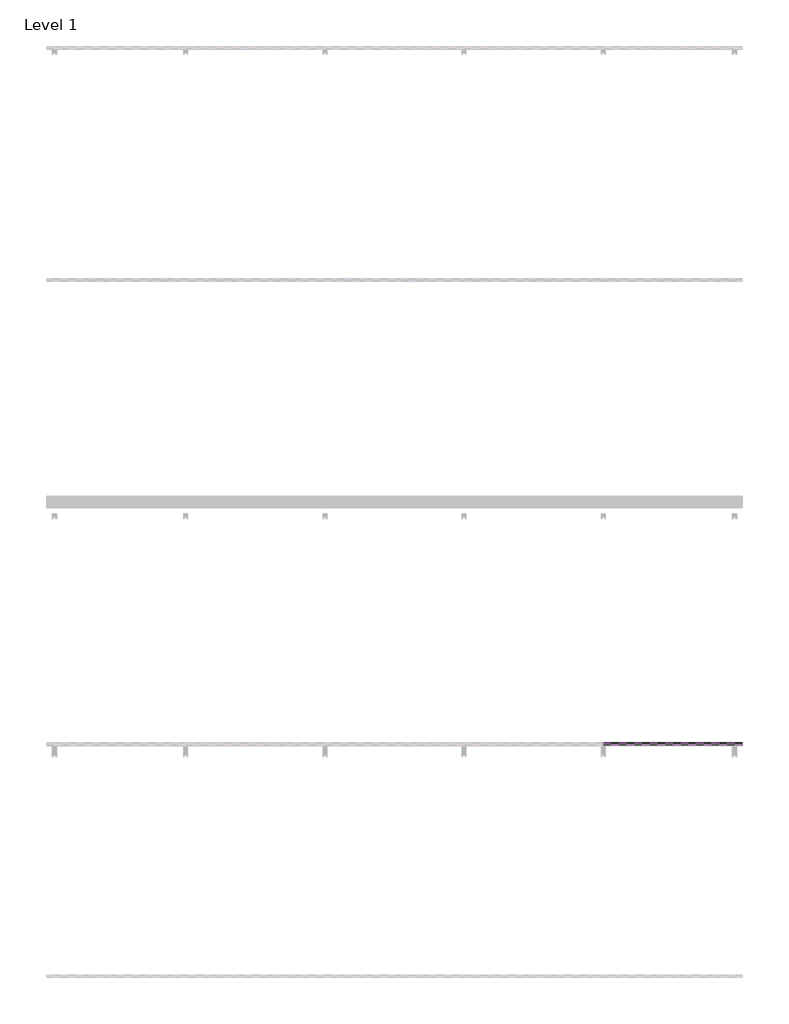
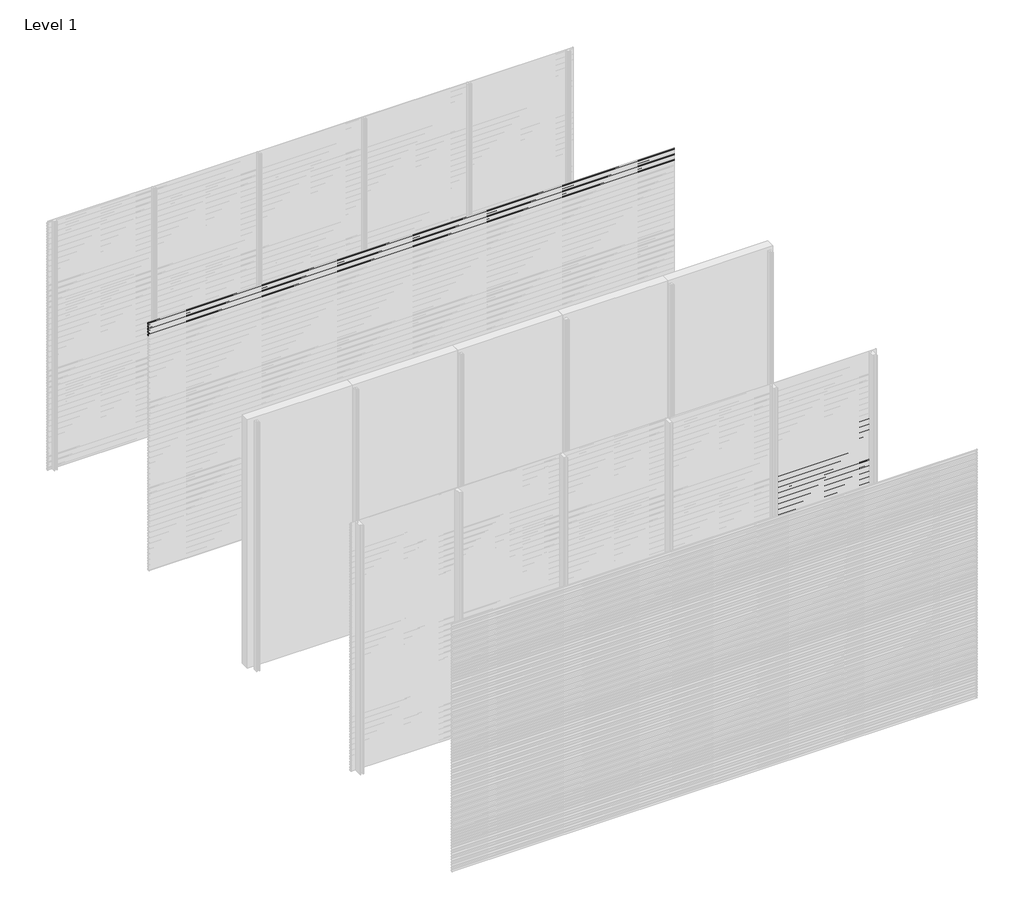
# One storey, part 55 of 77: 72 proxies.
"""IFC4 building model written with IfcOpenShell, lengths in millimetres."""

from ifc_helpers import new_model, si_unit, frame, origin, place, context, project, spatial, polyline, outline, extrude, element, save

model = new_model("IFC4")

# Units and contexts
model_context = context("Model", 3, world=origin())
ifc_project = project(units=[si_unit("LENGTHUNIT", "METRE", prefix="MILLI")], contexts=[model_context])

# Site, building, storey
site = spatial("IfcSite", under=ifc_project)
building = spatial("IfcBuilding", under=site)
storey = spatial("IfcBuildingStorey", under=building, Name="Level 1", Elevation=0.0)

# Proxies
placement = place(None, origin())
element("IfcBuildingElementProxy", 1, Name="Wall Sweeps", at=placement, inside=storey, context=model_context, shape_type="SweptSolid", body=[
    extrude(outline(polyline([(-13978.6, 2972.5359887), (-13998.0, 2983.7366691), (-13998.0, 2997.0), (-13997.0, 2997.0), (-13997.0, 2984.3191057), (-13977.6, 2973.1185105), (-13977.6, 2959.5185105), (-13978.6, 2961.0953129), (-13978.6, 2966.9032062), (-13995.9773817, 2958.8), (-13996.4, 2959.7063078), (-13978.6, 2968.0065841), (-13978.6, 2972.5359887)])), frame((0.0, 0.0, 0.0), z_axis=(1.0, 0.0, 0.0), x_axis=(0.0, 1.0, 0.0)), (0.0, 0.0, 1.0), 6000.0),
])
element("IfcBuildingElementProxy", 2, Name="Wall Sweeps", at=placement, inside=storey, context=model_context, shape_type="SweptSolid", body=[
    extrude(outline(polyline([(-13978.6, 2939.2359887), (-13998.0, 2950.4366691), (-13998.0, 2963.7), (-13997.0, 2963.7), (-13997.0, 2951.0191057), (-13977.6, 2939.8185105), (-13977.6, 2926.2185105), (-13978.6, 2927.7953129), (-13978.6, 2933.6032062), (-13995.9773817, 2925.5), (-13996.4, 2926.4063078), (-13978.6, 2934.7065841), (-13978.6, 2939.2359887)])), frame((0.0, 0.0, 0.0), z_axis=(1.0, 0.0, 0.0), x_axis=(0.0, 1.0, 0.0)), (0.0, 0.0, 1.0), 6000.0),
])
element("IfcBuildingElementProxy", 3, Name="Wall Sweeps", at=placement, inside=storey, context=model_context, shape_type="SweptSolid", body=[
    extrude(outline(polyline([(-13978.6, 2905.9359887), (-13998.0, 2917.1366691), (-13998.0, 2930.4), (-13997.0, 2930.4), (-13997.0, 2917.7191057), (-13977.6, 2906.5185105), (-13977.6, 2892.9185105), (-13978.6, 2894.4953129), (-13978.6, 2900.3032062), (-13995.9773817, 2892.2), (-13996.4, 2893.1063078), (-13978.6, 2901.4065841), (-13978.6, 2905.9359887)])), frame((0.0, 0.0, 0.0), z_axis=(1.0, 0.0, 0.0), x_axis=(0.0, 1.0, 0.0)), (0.0, 0.0, 1.0), 6000.0),
])
element("IfcBuildingElementProxy", 4, Name="Wall Sweeps", at=placement, inside=storey, context=model_context, shape_type="SweptSolid", body=[
    extrude(outline(polyline([(-13978.6, 2872.6359887), (-13998.0, 2883.8366691), (-13998.0, 2897.1), (-13997.0, 2897.1), (-13997.0, 2884.4191057), (-13977.6, 2873.2185105), (-13977.6, 2859.6185105), (-13978.6, 2861.1953129), (-13978.6, 2867.0032062), (-13995.9773817, 2858.9), (-13996.4, 2859.8063078), (-13978.6, 2868.1065841), (-13978.6, 2872.6359887)])), frame((0.0, 0.0, 0.0), z_axis=(1.0, 0.0, 0.0), x_axis=(0.0, 1.0, 0.0)), (0.0, 0.0, 1.0), 6000.0),
])
element("IfcBuildingElementProxy", 5, Name="Wall Sweeps", at=placement, inside=storey, context=model_context, shape_type="SweptSolid", body=[
    extrude(outline(polyline([(-13978.6, 2839.3359887), (-13998.0, 2850.5366691), (-13998.0, 2863.8), (-13997.0, 2863.8), (-13997.0, 2851.1191057), (-13977.6, 2839.9185105), (-13977.6, 2826.3185105), (-13978.6, 2827.8953129), (-13978.6, 2833.7032062), (-13995.9773817, 2825.6), (-13996.4, 2826.5063078), (-13978.6, 2834.8065841), (-13978.6, 2839.3359887)])), frame((0.0, 0.0, 0.0), z_axis=(1.0, 0.0, 0.0), x_axis=(0.0, 1.0, 0.0)), (0.0, 0.0, 1.0), 6000.0),
])
element("IfcBuildingElementProxy", 6, Name="Wall Sweeps", at=placement, inside=storey, context=model_context, shape_type="SweptSolid", body=[
    extrude(outline(polyline([(-17978.6, 2206.6359887), (-17998.0, 2217.8366691), (-17998.0, 2231.1), (-17997.0, 2231.1), (-17997.0, 2218.4191057), (-17977.6, 2207.2185105), (-17977.6, 2193.6185105), (-17978.6, 2195.1953129), (-17978.6, 2201.0032062), (-17995.9773817, 2192.9), (-17996.4, 2193.8063078), (-17978.6, 2202.1065841), (-17978.6, 2206.6359887)])), frame((4800.0, 0.0, 0.0), z_axis=(1.0, 0.0, 0.0), x_axis=(0.0, 1.0, 0.0)), (0.0, 0.0, 1.0), 1200.0),
])
element("IfcBuildingElementProxy", 7, Name="Wall Sweeps", at=placement, inside=storey, context=model_context, shape_type="SweptSolid", body=[
    extrude(outline(polyline([(-17978.6, 2173.3359887), (-17998.0, 2184.5366691), (-17998.0, 2197.8), (-17997.0, 2197.8), (-17997.0, 2185.1191057), (-17977.6, 2173.9185105), (-17977.6, 2160.3185105), (-17978.6, 2161.8953129), (-17978.6, 2167.7032062), (-17995.9773817, 2159.6), (-17996.4, 2160.5063078), (-17978.6, 2168.8065841), (-17978.6, 2173.3359887)])), frame((4800.0, 0.0, 0.0), z_axis=(1.0, 0.0, 0.0), x_axis=(0.0, 1.0, 0.0)), (0.0, 0.0, 1.0), 1200.0),
])
element("IfcBuildingElementProxy", 8, Name="Wall Sweeps", at=placement, inside=storey, context=model_context, shape_type="SweptSolid", body=[
    extrude(outline(polyline([(-17978.6, 2140.0359887), (-17998.0, 2151.2366691), (-17998.0, 2164.5), (-17997.0, 2164.5), (-17997.0, 2151.8191057), (-17977.6, 2140.6185105), (-17977.6, 2127.0185105), (-17978.6, 2128.5953129), (-17978.6, 2134.4032062), (-17995.9773817, 2126.3), (-17996.4, 2127.2063078), (-17978.6, 2135.5065841), (-17978.6, 2140.0359887)])), frame((4800.0, 0.0, 0.0), z_axis=(1.0, 0.0, 0.0), x_axis=(0.0, 1.0, 0.0)), (0.0, 0.0, 1.0), 1200.0),
])
element("IfcBuildingElementProxy", 9, Name="Wall Sweeps", at=placement, inside=storey, context=model_context, shape_type="SweptSolid", body=[
    extrude(outline(polyline([(-17978.6, 2106.7359887), (-17998.0, 2117.9366691), (-17998.0, 2131.2), (-17997.0, 2131.2), (-17997.0, 2118.5191057), (-17977.6, 2107.3185105), (-17977.6, 2093.7185105), (-17978.6, 2095.2953129), (-17978.6, 2101.1032062), (-17995.9773817, 2093.0), (-17996.4, 2093.9063078), (-17978.6, 2102.2065841), (-17978.6, 2106.7359887)])), frame((4800.0, 0.0, 0.0), z_axis=(1.0, 0.0, 0.0), x_axis=(0.0, 1.0, 0.0)), (0.0, 0.0, 1.0), 1200.0),
])
element("IfcBuildingElementProxy", 10, Name="Wall Sweeps", at=placement, inside=storey, context=model_context, shape_type="SweptSolid", body=[
    extrude(outline(polyline([(-17978.6, 2073.4359887), (-17998.0, 2084.6366691), (-17998.0, 2097.9), (-17997.0, 2097.9), (-17997.0, 2085.2191057), (-17977.6, 2074.0185105), (-17977.6, 2060.4185105), (-17978.6, 2061.9953129), (-17978.6, 2067.8032062), (-17995.9773817, 2059.7), (-17996.4, 2060.6063078), (-17978.6, 2068.9065841), (-17978.6, 2073.4359887)])), frame((4800.0, 0.0, 0.0), z_axis=(1.0, 0.0, 0.0), x_axis=(0.0, 1.0, 0.0)), (0.0, 0.0, 1.0), 1200.0),
])
element("IfcBuildingElementProxy", 11, Name="Wall Sweeps", at=placement, inside=storey, context=model_context, shape_type="SweptSolid", body=[
    extrude(outline(polyline([(-17978.6, 2040.1359887), (-17998.0, 2051.3366691), (-17998.0, 2064.6), (-17997.0, 2064.6), (-17997.0, 2051.9191057), (-17977.6, 2040.7185105), (-17977.6, 2027.1185105), (-17978.6, 2028.6953129), (-17978.6, 2034.5032062), (-17995.9773817, 2026.4), (-17996.4, 2027.3063078), (-17978.6, 2035.6065841), (-17978.6, 2040.1359887)])), frame((4800.0, 0.0, 0.0), z_axis=(1.0, 0.0, 0.0), x_axis=(0.0, 1.0, 0.0)), (0.0, 0.0, 1.0), 1200.0),
])
element("IfcBuildingElementProxy", 12, Name="Wall Sweeps", at=placement, inside=storey, context=model_context, shape_type="SweptSolid", body=[
    extrude(outline(polyline([(-17978.6, 2006.8359887), (-17998.0, 2018.0366691), (-17998.0, 2031.3), (-17997.0, 2031.3), (-17997.0, 2018.6191057), (-17977.6, 2007.4185105), (-17977.6, 1993.8185105), (-17978.6, 1995.3953129), (-17978.6, 2001.2032062), (-17995.9773817, 1993.1), (-17996.4, 1994.0063078), (-17978.6, 2002.3065841), (-17978.6, 2006.8359887)])), frame((4800.0, 0.0, 0.0), z_axis=(1.0, 0.0, 0.0), x_axis=(0.0, 1.0, 0.0)), (0.0, 0.0, 1.0), 1200.0),
])
element("IfcBuildingElementProxy", 13, Name="Wall Sweeps", at=placement, inside=storey, context=model_context, shape_type="SweptSolid", body=[
    extrude(outline(polyline([(-17978.6, 1973.5359887), (-17998.0, 1984.7366691), (-17998.0, 1998.0), (-17997.0, 1998.0), (-17997.0, 1985.3191057), (-17977.6, 1974.1185105), (-17977.6, 1960.5185105), (-17978.6, 1962.0953129), (-17978.6, 1967.9032062), (-17995.9773817, 1959.8), (-17996.4, 1960.7063078), (-17978.6, 1969.0065841), (-17978.6, 1973.5359887)])), frame((4800.0, 0.0, 0.0), z_axis=(1.0, 0.0, 0.0), x_axis=(0.0, 1.0, 0.0)), (0.0, 0.0, 1.0), 1200.0),
])
element("IfcBuildingElementProxy", 14, Name="Wall Sweeps", at=placement, inside=storey, context=model_context, shape_type="SweptSolid", body=[
    extrude(outline(polyline([(-17978.6, 1940.2359887), (-17998.0, 1951.4366691), (-17998.0, 1964.7), (-17997.0, 1964.7), (-17997.0, 1952.0191057), (-17977.6, 1940.8185105), (-17977.6, 1927.2185105), (-17978.6, 1928.7953129), (-17978.6, 1934.6032062), (-17995.9773817, 1926.5), (-17996.4, 1927.4063078), (-17978.6, 1935.7065841), (-17978.6, 1940.2359887)])), frame((4800.0, 0.0, 0.0), z_axis=(1.0, 0.0, 0.0), x_axis=(0.0, 1.0, 0.0)), (0.0, 0.0, 1.0), 1200.0),
])
element("IfcBuildingElementProxy", 15, Name="Wall Sweeps", at=placement, inside=storey, context=model_context, shape_type="SweptSolid", body=[
    extrude(outline(polyline([(-17978.6, 1906.9359887), (-17998.0, 1918.1366691), (-17998.0, 1931.4), (-17997.0, 1931.4), (-17997.0, 1918.7191057), (-17977.6, 1907.5185105), (-17977.6, 1893.9185105), (-17978.6, 1895.4953129), (-17978.6, 1901.3032062), (-17995.9773817, 1893.2), (-17996.4, 1894.1063078), (-17978.6, 1902.4065841), (-17978.6, 1906.9359887)])), frame((4800.0, 0.0, 0.0), z_axis=(1.0, 0.0, 0.0), x_axis=(0.0, 1.0, 0.0)), (0.0, 0.0, 1.0), 1200.0),
])
element("IfcBuildingElementProxy", 16, Name="Wall Sweeps", at=placement, inside=storey, context=model_context, shape_type="SweptSolid", body=[
    extrude(outline(polyline([(-17978.6, 1873.6359887), (-17998.0, 1884.8366691), (-17998.0, 1898.1), (-17997.0, 1898.1), (-17997.0, 1885.4191057), (-17977.6, 1874.2185105), (-17977.6, 1860.6185105), (-17978.6, 1862.1953129), (-17978.6, 1868.0032062), (-17995.9773817, 1859.9), (-17996.4, 1860.8063078), (-17978.6, 1869.1065841), (-17978.6, 1873.6359887)])), frame((4800.0, 0.0, 0.0), z_axis=(1.0, 0.0, 0.0), x_axis=(0.0, 1.0, 0.0)), (0.0, 0.0, 1.0), 1200.0),
])
element("IfcBuildingElementProxy", 17, Name="Wall Sweeps", at=placement, inside=storey, context=model_context, shape_type="SweptSolid", body=[
    extrude(outline(polyline([(-17978.6, 1840.3359887), (-17998.0, 1851.5366691), (-17998.0, 1864.8), (-17997.0, 1864.8), (-17997.0, 1852.1191057), (-17977.6, 1840.9185105), (-17977.6, 1827.3185105), (-17978.6, 1828.8953129), (-17978.6, 1834.7032062), (-17995.9773817, 1826.6), (-17996.4, 1827.5063078), (-17978.6, 1835.8065841), (-17978.6, 1840.3359887)])), frame((4800.0, 0.0, 0.0), z_axis=(1.0, 0.0, 0.0), x_axis=(0.0, 1.0, 0.0)), (0.0, 0.0, 1.0), 1200.0),
])
element("IfcBuildingElementProxy", 18, Name="Wall Sweeps", at=placement, inside=storey, context=model_context, shape_type="SweptSolid", body=[
    extrude(outline(polyline([(-17978.6, 1807.0359887), (-17998.0, 1818.2366691), (-17998.0, 1831.5), (-17997.0, 1831.5), (-17997.0, 1818.8191057), (-17977.6, 1807.6185105), (-17977.6, 1794.0185105), (-17978.6, 1795.5953129), (-17978.6, 1801.4032062), (-17995.9773817, 1793.3), (-17996.4, 1794.2063078), (-17978.6, 1802.5065841), (-17978.6, 1807.0359887)])), frame((4800.0, 0.0, 0.0), z_axis=(1.0, 0.0, 0.0), x_axis=(0.0, 1.0, 0.0)), (0.0, 0.0, 1.0), 1200.0),
])
element("IfcBuildingElementProxy", 19, Name="Wall Sweeps", at=placement, inside=storey, context=model_context, shape_type="SweptSolid", body=[
    extrude(outline(polyline([(-17978.6, 1773.7359887), (-17998.0, 1784.9366691), (-17998.0, 1798.2), (-17997.0, 1798.2), (-17997.0, 1785.5191057), (-17977.6, 1774.3185105), (-17977.6, 1760.7185105), (-17978.6, 1762.2953129), (-17978.6, 1768.1032062), (-17995.9773817, 1760.0), (-17996.4, 1760.9063078), (-17978.6, 1769.2065841), (-17978.6, 1773.7359887)])), frame((4800.0, 0.0, 0.0), z_axis=(1.0, 0.0, 0.0), x_axis=(0.0, 1.0, 0.0)), (0.0, 0.0, 1.0), 1200.0),
])
element("IfcBuildingElementProxy", 20, Name="Wall Sweeps", at=placement, inside=storey, context=model_context, shape_type="SweptSolid", body=[
    extrude(outline(polyline([(-17978.6, 1740.4359887), (-17998.0, 1751.6366691), (-17998.0, 1764.9), (-17997.0, 1764.9), (-17997.0, 1752.2191057), (-17977.6, 1741.0185105), (-17977.6, 1727.4185105), (-17978.6, 1728.9953129), (-17978.6, 1734.8032062), (-17995.9773817, 1726.7), (-17996.4, 1727.6063078), (-17978.6, 1735.9065841), (-17978.6, 1740.4359887)])), frame((4800.0, 0.0, 0.0), z_axis=(1.0, 0.0, 0.0), x_axis=(0.0, 1.0, 0.0)), (0.0, 0.0, 1.0), 1200.0),
])
element("IfcBuildingElementProxy", 21, Name="Wall Sweeps", at=placement, inside=storey, context=model_context, shape_type="SweptSolid", body=[
    extrude(outline(polyline([(-17978.6, 1707.1359887), (-17998.0, 1718.3366691), (-17998.0, 1731.6), (-17997.0, 1731.6), (-17997.0, 1718.9191057), (-17977.6, 1707.7185105), (-17977.6, 1694.1185105), (-17978.6, 1695.6953129), (-17978.6, 1701.5032062), (-17995.9773817, 1693.4), (-17996.4, 1694.3063078), (-17978.6, 1702.6065841), (-17978.6, 1707.1359887)])), frame((4800.0, 0.0, 0.0), z_axis=(1.0, 0.0, 0.0), x_axis=(0.0, 1.0, 0.0)), (0.0, 0.0, 1.0), 1200.0),
])
element("IfcBuildingElementProxy", 22, Name="Wall Sweeps", at=placement, inside=storey, context=model_context, shape_type="SweptSolid", body=[
    extrude(outline(polyline([(-17978.6, 1673.8359887), (-17998.0, 1685.0366691), (-17998.0, 1698.3), (-17997.0, 1698.3), (-17997.0, 1685.6191057), (-17977.6, 1674.4185105), (-17977.6, 1660.8185105), (-17978.6, 1662.3953129), (-17978.6, 1668.2032062), (-17995.9773817, 1660.1), (-17996.4, 1661.0063078), (-17978.6, 1669.3065841), (-17978.6, 1673.8359887)])), frame((4800.0, 0.0, 0.0), z_axis=(1.0, 0.0, 0.0), x_axis=(0.0, 1.0, 0.0)), (0.0, 0.0, 1.0), 1200.0),
])
element("IfcBuildingElementProxy", 23, Name="Wall Sweeps", at=placement, inside=storey, context=model_context, shape_type="SweptSolid", body=[
    extrude(outline(polyline([(-17978.6, 1640.5359887), (-17998.0, 1651.7366691), (-17998.0, 1665.0), (-17997.0, 1665.0), (-17997.0, 1652.3191057), (-17977.6, 1641.1185105), (-17977.6, 1627.5185105), (-17978.6, 1629.0953129), (-17978.6, 1634.9032062), (-17995.9773817, 1626.8), (-17996.4, 1627.7063078), (-17978.6, 1636.0065841), (-17978.6, 1640.5359887)])), frame((4800.0, 0.0, 0.0), z_axis=(1.0, 0.0, 0.0), x_axis=(0.0, 1.0, 0.0)), (0.0, 0.0, 1.0), 1200.0),
])
element("IfcBuildingElementProxy", 24, Name="Wall Sweeps", at=placement, inside=storey, context=model_context, shape_type="SweptSolid", body=[
    extrude(outline(polyline([(-17978.6, 1607.2359887), (-17998.0, 1618.4366691), (-17998.0, 1631.7), (-17997.0, 1631.7), (-17997.0, 1619.0191057), (-17977.6, 1607.8185105), (-17977.6, 1594.2185105), (-17978.6, 1595.7953129), (-17978.6, 1601.6032062), (-17995.9773817, 1593.5), (-17996.4, 1594.4063078), (-17978.6, 1602.7065841), (-17978.6, 1607.2359887)])), frame((4800.0, 0.0, 0.0), z_axis=(1.0, 0.0, 0.0), x_axis=(0.0, 1.0, 0.0)), (0.0, 0.0, 1.0), 1200.0),
])
element("IfcBuildingElementProxy", 25, Name="Wall Sweeps", at=placement, inside=storey, context=model_context, shape_type="SweptSolid", body=[
    extrude(outline(polyline([(-17978.6, 1573.9359887), (-17998.0, 1585.1366691), (-17998.0, 1598.4), (-17997.0, 1598.4), (-17997.0, 1585.7191057), (-17977.6, 1574.5185105), (-17977.6, 1560.9185105), (-17978.6, 1562.4953129), (-17978.6, 1568.3032062), (-17995.9773817, 1560.2), (-17996.4, 1561.1063078), (-17978.6, 1569.4065841), (-17978.6, 1573.9359887)])), frame((4800.0, 0.0, 0.0), z_axis=(1.0, 0.0, 0.0), x_axis=(0.0, 1.0, 0.0)), (0.0, 0.0, 1.0), 1200.0),
])
element("IfcBuildingElementProxy", 26, Name="Wall Sweeps", at=placement, inside=storey, context=model_context, shape_type="SweptSolid", body=[
    extrude(outline(polyline([(-17978.6, 1540.6359887), (-17998.0, 1551.8366691), (-17998.0, 1565.1), (-17997.0, 1565.1), (-17997.0, 1552.4191057), (-17977.6, 1541.2185105), (-17977.6, 1527.6185105), (-17978.6, 1529.1953129), (-17978.6, 1535.0032062), (-17995.9773817, 1526.9), (-17996.4, 1527.8063078), (-17978.6, 1536.1065841), (-17978.6, 1540.6359887)])), frame((4800.0, 0.0, 0.0), z_axis=(1.0, 0.0, 0.0), x_axis=(0.0, 1.0, 0.0)), (0.0, 0.0, 1.0), 1200.0),
])
element("IfcBuildingElementProxy", 27, Name="Wall Sweeps", at=placement, inside=storey, context=model_context, shape_type="SweptSolid", body=[
    extrude(outline(polyline([(-17978.6, 1507.3359887), (-17998.0, 1518.5366691), (-17998.0, 1531.8), (-17997.0, 1531.8), (-17997.0, 1519.1191057), (-17977.6, 1507.9185105), (-17977.6, 1494.3185105), (-17978.6, 1495.8953129), (-17978.6, 1501.7032062), (-17995.9773817, 1493.6), (-17996.4, 1494.5063078), (-17978.6, 1502.8065841), (-17978.6, 1507.3359887)])), frame((4800.0, 0.0, 0.0), z_axis=(1.0, 0.0, 0.0), x_axis=(0.0, 1.0, 0.0)), (0.0, 0.0, 1.0), 1200.0),
])
element("IfcBuildingElementProxy", 28, Name="Wall Sweeps", at=placement, inside=storey, context=model_context, shape_type="SweptSolid", body=[
    extrude(outline(polyline([(-17978.6, 1474.0359887), (-17998.0, 1485.2366691), (-17998.0, 1498.5), (-17997.0, 1498.5), (-17997.0, 1485.8191057), (-17977.6, 1474.6185105), (-17977.6, 1461.0185105), (-17978.6, 1462.5953129), (-17978.6, 1468.4032062), (-17995.9773817, 1460.3), (-17996.4, 1461.2063078), (-17978.6, 1469.5065841), (-17978.6, 1474.0359887)])), frame((4800.0, 0.0, 0.0), z_axis=(1.0, 0.0, 0.0), x_axis=(0.0, 1.0, 0.0)), (0.0, 0.0, 1.0), 1200.0),
])
element("IfcBuildingElementProxy", 29, Name="Wall Sweeps", at=placement, inside=storey, context=model_context, shape_type="SweptSolid", body=[
    extrude(outline(polyline([(-17978.6, 1440.7359887), (-17998.0, 1451.9366691), (-17998.0, 1465.2), (-17997.0, 1465.2), (-17997.0, 1452.5191057), (-17977.6, 1441.3185105), (-17977.6, 1427.7185105), (-17978.6, 1429.2953129), (-17978.6, 1435.1032062), (-17995.9773817, 1427.0), (-17996.4, 1427.9063078), (-17978.6, 1436.2065841), (-17978.6, 1440.7359887)])), frame((4800.0, 0.0, 0.0), z_axis=(1.0, 0.0, 0.0), x_axis=(0.0, 1.0, 0.0)), (0.0, 0.0, 1.0), 1200.0),
])
element("IfcBuildingElementProxy", 30, Name="Wall Sweeps", at=placement, inside=storey, context=model_context, shape_type="SweptSolid", body=[
    extrude(outline(polyline([(-17978.6, 1407.4359887), (-17998.0, 1418.6366691), (-17998.0, 1431.9), (-17997.0, 1431.9), (-17997.0, 1419.2191057), (-17977.6, 1408.0185105), (-17977.6, 1394.4185105), (-17978.6, 1395.9953129), (-17978.6, 1401.8032062), (-17995.9773817, 1393.7), (-17996.4, 1394.6063078), (-17978.6, 1402.9065841), (-17978.6, 1407.4359887)])), frame((4800.0, 0.0, 0.0), z_axis=(1.0, 0.0, 0.0), x_axis=(0.0, 1.0, 0.0)), (0.0, 0.0, 1.0), 1200.0),
])
element("IfcBuildingElementProxy", 31, Name="Wall Sweeps", at=placement, inside=storey, context=model_context, shape_type="SweptSolid", body=[
    extrude(outline(polyline([(-17978.6, 1374.1359887), (-17998.0, 1385.3366691), (-17998.0, 1398.6), (-17997.0, 1398.6), (-17997.0, 1385.9191057), (-17977.6, 1374.7185105), (-17977.6, 1361.1185105), (-17978.6, 1362.6953129), (-17978.6, 1368.5032062), (-17995.9773817, 1360.4), (-17996.4, 1361.3063078), (-17978.6, 1369.6065841), (-17978.6, 1374.1359887)])), frame((4800.0, 0.0, 0.0), z_axis=(1.0, 0.0, 0.0), x_axis=(0.0, 1.0, 0.0)), (0.0, 0.0, 1.0), 1200.0),
])
element("IfcBuildingElementProxy", 32, Name="Wall Sweeps", at=placement, inside=storey, context=model_context, shape_type="SweptSolid", body=[
    extrude(outline(polyline([(-17978.6, 1340.8359887), (-17998.0, 1352.0366691), (-17998.0, 1365.3), (-17997.0, 1365.3), (-17997.0, 1352.6191057), (-17977.6, 1341.4185105), (-17977.6, 1327.8185105), (-17978.6, 1329.3953129), (-17978.6, 1335.2032062), (-17995.9773817, 1327.1), (-17996.4, 1328.0063078), (-17978.6, 1336.3065841), (-17978.6, 1340.8359887)])), frame((4800.0, 0.0, 0.0), z_axis=(1.0, 0.0, 0.0), x_axis=(0.0, 1.0, 0.0)), (0.0, 0.0, 1.0), 1200.0),
])
element("IfcBuildingElementProxy", 33, Name="Wall Sweeps", at=placement, inside=storey, context=model_context, shape_type="SweptSolid", body=[
    extrude(outline(polyline([(-17978.6, 1307.5359887), (-17998.0, 1318.7366691), (-17998.0, 1332.0), (-17997.0, 1332.0), (-17997.0, 1319.3191057), (-17977.6, 1308.1185105), (-17977.6, 1294.5185105), (-17978.6, 1296.0953129), (-17978.6, 1301.9032062), (-17995.9773817, 1293.8), (-17996.4, 1294.7063078), (-17978.6, 1303.0065841), (-17978.6, 1307.5359887)])), frame((4800.0, 0.0, 0.0), z_axis=(1.0, 0.0, 0.0), x_axis=(0.0, 1.0, 0.0)), (0.0, 0.0, 1.0), 1200.0),
])
element("IfcBuildingElementProxy", 34, Name="Wall Sweeps", at=placement, inside=storey, context=model_context, shape_type="SweptSolid", body=[
    extrude(outline(polyline([(-17978.6, 1274.2359887), (-17998.0, 1285.4366691), (-17998.0, 1298.7), (-17997.0, 1298.7), (-17997.0, 1286.0191057), (-17977.6, 1274.8185105), (-17977.6, 1261.2185105), (-17978.6, 1262.7953129), (-17978.6, 1268.6032062), (-17995.9773817, 1260.5), (-17996.4, 1261.4063078), (-17978.6, 1269.7065841), (-17978.6, 1274.2359887)])), frame((4800.0, 0.0, 0.0), z_axis=(1.0, 0.0, 0.0), x_axis=(0.0, 1.0, 0.0)), (0.0, 0.0, 1.0), 1200.0),
])
element("IfcBuildingElementProxy", 35, Name="Wall Sweeps", at=placement, inside=storey, context=model_context, shape_type="SweptSolid", body=[
    extrude(outline(polyline([(-17978.6, 1240.9359887), (-17998.0, 1252.1366691), (-17998.0, 1265.4), (-17997.0, 1265.4), (-17997.0, 1252.7191057), (-17977.6, 1241.5185105), (-17977.6, 1227.9185105), (-17978.6, 1229.4953129), (-17978.6, 1235.3032062), (-17995.9773817, 1227.2), (-17996.4, 1228.1063078), (-17978.6, 1236.4065841), (-17978.6, 1240.9359887)])), frame((4800.0, 0.0, 0.0), z_axis=(1.0, 0.0, 0.0), x_axis=(0.0, 1.0, 0.0)), (0.0, 0.0, 1.0), 1200.0),
])
element("IfcBuildingElementProxy", 36, Name="Wall Sweeps", at=placement, inside=storey, context=model_context, shape_type="SweptSolid", body=[
    extrude(outline(polyline([(-17978.6, 1207.6359887), (-17998.0, 1218.8366691), (-17998.0, 1232.1), (-17997.0, 1232.1), (-17997.0, 1219.4191057), (-17977.6, 1208.2185105), (-17977.6, 1194.6185105), (-17978.6, 1196.1953129), (-17978.6, 1202.0032062), (-17995.9773817, 1193.9), (-17996.4, 1194.8063078), (-17978.6, 1203.1065841), (-17978.6, 1207.6359887)])), frame((4800.0, 0.0, 0.0), z_axis=(1.0, 0.0, 0.0), x_axis=(0.0, 1.0, 0.0)), (0.0, 0.0, 1.0), 1200.0),
])
element("IfcBuildingElementProxy", 37, Name="Wall Sweeps", at=placement, inside=storey, context=model_context, shape_type="SweptSolid", body=[
    extrude(outline(polyline([(-17978.6, 1174.3359887), (-17998.0, 1185.5366691), (-17998.0, 1198.8), (-17997.0, 1198.8), (-17997.0, 1186.1191057), (-17977.6, 1174.9185105), (-17977.6, 1161.3185105), (-17978.6, 1162.8953129), (-17978.6, 1168.7032062), (-17995.9773817, 1160.6), (-17996.4, 1161.5063078), (-17978.6, 1169.8065841), (-17978.6, 1174.3359887)])), frame((4800.0, 0.0, 0.0), z_axis=(1.0, 0.0, 0.0), x_axis=(0.0, 1.0, 0.0)), (0.0, 0.0, 1.0), 1200.0),
])
element("IfcBuildingElementProxy", 38, Name="Wall Sweeps", at=placement, inside=storey, context=model_context, shape_type="SweptSolid", body=[
    extrude(outline(polyline([(-17978.6, 1141.0359887), (-17998.0, 1152.2366691), (-17998.0, 1165.5), (-17997.0, 1165.5), (-17997.0, 1152.8191057), (-17977.6, 1141.6185105), (-17977.6, 1128.0185105), (-17978.6, 1129.5953129), (-17978.6, 1135.4032062), (-17995.9773817, 1127.3), (-17996.4, 1128.2063078), (-17978.6, 1136.5065841), (-17978.6, 1141.0359887)])), frame((4800.0, 0.0, 0.0), z_axis=(1.0, 0.0, 0.0), x_axis=(0.0, 1.0, 0.0)), (0.0, 0.0, 1.0), 1200.0),
])
element("IfcBuildingElementProxy", 39, Name="Wall Sweeps", at=placement, inside=storey, context=model_context, shape_type="SweptSolid", body=[
    extrude(outline(polyline([(-17978.6, 1107.7359887), (-17998.0, 1118.9366691), (-17998.0, 1132.2), (-17997.0, 1132.2), (-17997.0, 1119.5191057), (-17977.6, 1108.3185105), (-17977.6, 1094.7185105), (-17978.6, 1096.2953129), (-17978.6, 1102.1032062), (-17995.9773817, 1094.0), (-17996.4, 1094.9063078), (-17978.6, 1103.2065841), (-17978.6, 1107.7359887)])), frame((4800.0, 0.0, 0.0), z_axis=(1.0, 0.0, 0.0), x_axis=(0.0, 1.0, 0.0)), (0.0, 0.0, 1.0), 1200.0),
])
element("IfcBuildingElementProxy", 40, Name="Wall Sweeps", at=placement, inside=storey, context=model_context, shape_type="SweptSolid", body=[
    extrude(outline(polyline([(-17978.6, 1074.4359887), (-17998.0, 1085.6366691), (-17998.0, 1098.9), (-17997.0, 1098.9), (-17997.0, 1086.2191057), (-17977.6, 1075.0185105), (-17977.6, 1061.4185105), (-17978.6, 1062.9953129), (-17978.6, 1068.8032062), (-17995.9773817, 1060.7), (-17996.4, 1061.6063078), (-17978.6, 1069.9065841), (-17978.6, 1074.4359887)])), frame((4800.0, 0.0, 0.0), z_axis=(1.0, 0.0, 0.0), x_axis=(0.0, 1.0, 0.0)), (0.0, 0.0, 1.0), 1200.0),
])
element("IfcBuildingElementProxy", 41, Name="Wall Sweeps", at=placement, inside=storey, context=model_context, shape_type="SweptSolid", body=[
    extrude(outline(polyline([(-17978.6, 1041.1359887), (-17998.0, 1052.3366691), (-17998.0, 1065.6), (-17997.0, 1065.6), (-17997.0, 1052.9191057), (-17977.6, 1041.7185105), (-17977.6, 1028.1185105), (-17978.6, 1029.6953129), (-17978.6, 1035.5032062), (-17995.9773817, 1027.4), (-17996.4, 1028.3063078), (-17978.6, 1036.6065841), (-17978.6, 1041.1359887)])), frame((4800.0, 0.0, 0.0), z_axis=(1.0, 0.0, 0.0), x_axis=(0.0, 1.0, 0.0)), (0.0, 0.0, 1.0), 1200.0),
])
element("IfcBuildingElementProxy", 42, Name="Wall Sweeps", at=placement, inside=storey, context=model_context, shape_type="SweptSolid", body=[
    extrude(outline(polyline([(-17978.6, 1007.8359887), (-17998.0, 1019.0366691), (-17998.0, 1032.3), (-17997.0, 1032.3), (-17997.0, 1019.6191057), (-17977.6, 1008.4185105), (-17977.6, 994.8185105), (-17978.6, 996.3953129), (-17978.6, 1002.2032062), (-17995.9773817, 994.1), (-17996.4, 995.0063078), (-17978.6, 1003.3065841), (-17978.6, 1007.8359887)])), frame((4800.0, 0.0, 0.0), z_axis=(1.0, 0.0, 0.0), x_axis=(0.0, 1.0, 0.0)), (0.0, 0.0, 1.0), 1200.0),
])
element("IfcBuildingElementProxy", 43, Name="Wall Sweeps", at=placement, inside=storey, context=model_context, shape_type="SweptSolid", body=[
    extrude(outline(polyline([(-17978.6, 974.5359887), (-17998.0, 985.7366691), (-17998.0, 999.0), (-17997.0, 999.0), (-17997.0, 986.3191057), (-17977.6, 975.1185105), (-17977.6, 961.5185105), (-17978.6, 963.0953129), (-17978.6, 968.9032062), (-17995.9773817, 960.8), (-17996.4, 961.7063078), (-17978.6, 970.0065841), (-17978.6, 974.5359887)])), frame((4800.0, 0.0, 0.0), z_axis=(1.0, 0.0, 0.0), x_axis=(0.0, 1.0, 0.0)), (0.0, 0.0, 1.0), 1200.0),
])
element("IfcBuildingElementProxy", 44, Name="Wall Sweeps", at=placement, inside=storey, context=model_context, shape_type="SweptSolid", body=[
    extrude(outline(polyline([(-17978.6, 941.2359887), (-17998.0, 952.4366691), (-17998.0, 965.7), (-17997.0, 965.7), (-17997.0, 953.0191057), (-17977.6, 941.8185105), (-17977.6, 928.2185105), (-17978.6, 929.7953129), (-17978.6, 935.6032062), (-17995.9773817, 927.5), (-17996.4, 928.4063078), (-17978.6, 936.7065841), (-17978.6, 941.2359887)])), frame((4800.0, 0.0, 0.0), z_axis=(1.0, 0.0, 0.0), x_axis=(0.0, 1.0, 0.0)), (0.0, 0.0, 1.0), 1200.0),
])
element("IfcBuildingElementProxy", 45, Name="Wall Sweeps", at=placement, inside=storey, context=model_context, shape_type="SweptSolid", body=[
    extrude(outline(polyline([(-17978.6, 907.9359887), (-17998.0, 919.1366691), (-17998.0, 932.4), (-17997.0, 932.4), (-17997.0, 919.7191057), (-17977.6, 908.5185105), (-17977.6, 894.9185105), (-17978.6, 896.4953129), (-17978.6, 902.3032062), (-17995.9773817, 894.2), (-17996.4, 895.1063078), (-17978.6, 903.4065841), (-17978.6, 907.9359887)])), frame((4800.0, 0.0, 0.0), z_axis=(1.0, 0.0, 0.0), x_axis=(0.0, 1.0, 0.0)), (0.0, 0.0, 1.0), 1200.0),
])
element("IfcBuildingElementProxy", 46, Name="Wall Sweeps", at=placement, inside=storey, context=model_context, shape_type="SweptSolid", body=[
    extrude(outline(polyline([(-17978.6, 874.6359887), (-17998.0, 885.8366691), (-17998.0, 899.1), (-17997.0, 899.1), (-17997.0, 886.4191057), (-17977.6, 875.2185105), (-17977.6, 861.6185105), (-17978.6, 863.1953129), (-17978.6, 869.0032062), (-17995.9773817, 860.9), (-17996.4, 861.8063078), (-17978.6, 870.1065841), (-17978.6, 874.6359887)])), frame((4800.0, 0.0, 0.0), z_axis=(1.0, 0.0, 0.0), x_axis=(0.0, 1.0, 0.0)), (0.0, 0.0, 1.0), 1200.0),
])
element("IfcBuildingElementProxy", 47, Name="Wall Sweeps", at=placement, inside=storey, context=model_context, shape_type="SweptSolid", body=[
    extrude(outline(polyline([(-17978.6, 841.3359887), (-17998.0, 852.5366691), (-17998.0, 865.8), (-17997.0, 865.8), (-17997.0, 853.1191057), (-17977.6, 841.9185105), (-17977.6, 828.3185105), (-17978.6, 829.8953129), (-17978.6, 835.7032062), (-17995.9773817, 827.6), (-17996.4, 828.5063078), (-17978.6, 836.8065841), (-17978.6, 841.3359887)])), frame((4800.0, 0.0, 0.0), z_axis=(1.0, 0.0, 0.0), x_axis=(0.0, 1.0, 0.0)), (0.0, 0.0, 1.0), 1200.0),
])
element("IfcBuildingElementProxy", 48, Name="Wall Sweeps", at=placement, inside=storey, context=model_context, shape_type="SweptSolid", body=[
    extrude(outline(polyline([(-17978.6, 808.0359887), (-17998.0, 819.2366691), (-17998.0, 832.5), (-17997.0, 832.5), (-17997.0, 819.8191057), (-17977.6, 808.6185105), (-17977.6, 795.0185105), (-17978.6, 796.5953129), (-17978.6, 802.4032062), (-17995.9773817, 794.3), (-17996.4, 795.2063078), (-17978.6, 803.5065841), (-17978.6, 808.0359887)])), frame((4800.0, 0.0, 0.0), z_axis=(1.0, 0.0, 0.0), x_axis=(0.0, 1.0, 0.0)), (0.0, 0.0, 1.0), 1200.0),
])
element("IfcBuildingElementProxy", 49, Name="Wall Sweeps", at=placement, inside=storey, context=model_context, shape_type="SweptSolid", body=[
    extrude(outline(polyline([(-17978.6, 774.7359887), (-17998.0, 785.9366691), (-17998.0, 799.2), (-17997.0, 799.2), (-17997.0, 786.5191057), (-17977.6, 775.3185105), (-17977.6, 761.7185105), (-17978.6, 763.2953129), (-17978.6, 769.1032062), (-17995.9773817, 761.0), (-17996.4, 761.9063078), (-17978.6, 770.2065841), (-17978.6, 774.7359887)])), frame((4800.0, 0.0, 0.0), z_axis=(1.0, 0.0, 0.0), x_axis=(0.0, 1.0, 0.0)), (0.0, 0.0, 1.0), 1200.0),
])
element("IfcBuildingElementProxy", 50, Name="Wall Sweeps", at=placement, inside=storey, context=model_context, shape_type="SweptSolid", body=[
    extrude(outline(polyline([(-17978.6, 741.4359887), (-17998.0, 752.6366691), (-17998.0, 765.9), (-17997.0, 765.9), (-17997.0, 753.2191057), (-17977.6, 742.0185105), (-17977.6, 728.4185105), (-17978.6, 729.9953129), (-17978.6, 735.8032062), (-17995.9773817, 727.7), (-17996.4, 728.6063078), (-17978.6, 736.9065841), (-17978.6, 741.4359887)])), frame((4800.0, 0.0, 0.0), z_axis=(1.0, 0.0, 0.0), x_axis=(0.0, 1.0, 0.0)), (0.0, 0.0, 1.0), 1200.0),
])
element("IfcBuildingElementProxy", 51, Name="Wall Sweeps", at=placement, inside=storey, context=model_context, shape_type="SweptSolid", body=[
    extrude(outline(polyline([(-17978.6, 708.1359887), (-17998.0, 719.3366691), (-17998.0, 732.6), (-17997.0, 732.6), (-17997.0, 719.9191057), (-17977.6, 708.7185105), (-17977.6, 695.1185105), (-17978.6, 696.6953129), (-17978.6, 702.5032062), (-17995.9773817, 694.4), (-17996.4, 695.3063078), (-17978.6, 703.6065841), (-17978.6, 708.1359887)])), frame((4800.0, 0.0, 0.0), z_axis=(1.0, 0.0, 0.0), x_axis=(0.0, 1.0, 0.0)), (0.0, 0.0, 1.0), 1200.0),
])
element("IfcBuildingElementProxy", 52, Name="Wall Sweeps", at=placement, inside=storey, context=model_context, shape_type="SweptSolid", body=[
    extrude(outline(polyline([(-17978.6, 674.8359887), (-17998.0, 686.0366691), (-17998.0, 699.3), (-17997.0, 699.3), (-17997.0, 686.6191057), (-17977.6, 675.4185105), (-17977.6, 661.8185105), (-17978.6, 663.3953129), (-17978.6, 669.2032062), (-17995.9773817, 661.1), (-17996.4, 662.0063078), (-17978.6, 670.3065841), (-17978.6, 674.8359887)])), frame((4800.0, 0.0, 0.0), z_axis=(1.0, 0.0, 0.0), x_axis=(0.0, 1.0, 0.0)), (0.0, 0.0, 1.0), 1200.0),
])
element("IfcBuildingElementProxy", 53, Name="Wall Sweeps", at=placement, inside=storey, context=model_context, shape_type="SweptSolid", body=[
    extrude(outline(polyline([(-17978.6, 641.5359887), (-17998.0, 652.7366691), (-17998.0, 666.0), (-17997.0, 666.0), (-17997.0, 653.3191057), (-17977.6, 642.1185105), (-17977.6, 628.5185105), (-17978.6, 630.0953129), (-17978.6, 635.9032062), (-17995.9773817, 627.8), (-17996.4, 628.7063078), (-17978.6, 637.0065841), (-17978.6, 641.5359887)])), frame((4800.0, 0.0, 0.0), z_axis=(1.0, 0.0, 0.0), x_axis=(0.0, 1.0, 0.0)), (0.0, 0.0, 1.0), 1200.0),
])
element("IfcBuildingElementProxy", 54, Name="Wall Sweeps", at=placement, inside=storey, context=model_context, shape_type="SweptSolid", body=[
    extrude(outline(polyline([(-17978.6, 608.2359887), (-17998.0, 619.4366691), (-17998.0, 632.7), (-17997.0, 632.7), (-17997.0, 620.0191057), (-17977.6, 608.8185105), (-17977.6, 595.2185105), (-17978.6, 596.7953129), (-17978.6, 602.6032062), (-17995.9773817, 594.5), (-17996.4, 595.4063078), (-17978.6, 603.7065841), (-17978.6, 608.2359887)])), frame((4800.0, 0.0, 0.0), z_axis=(1.0, 0.0, 0.0), x_axis=(0.0, 1.0, 0.0)), (0.0, 0.0, 1.0), 1200.0),
])
element("IfcBuildingElementProxy", 55, Name="Wall Sweeps", at=placement, inside=storey, context=model_context, shape_type="SweptSolid", body=[
    extrude(outline(polyline([(-17978.6, 574.9359887), (-17998.0, 586.1366691), (-17998.0, 599.4), (-17997.0, 599.4), (-17997.0, 586.7191057), (-17977.6, 575.5185105), (-17977.6, 561.9185105), (-17978.6, 563.4953129), (-17978.6, 569.3032062), (-17995.9773817, 561.2), (-17996.4, 562.1063078), (-17978.6, 570.4065841), (-17978.6, 574.9359887)])), frame((4800.0, 0.0, 0.0), z_axis=(1.0, 0.0, 0.0), x_axis=(0.0, 1.0, 0.0)), (0.0, 0.0, 1.0), 1200.0),
])
element("IfcBuildingElementProxy", 56, Name="Wall Sweeps", at=placement, inside=storey, context=model_context, shape_type="SweptSolid", body=[
    extrude(outline(polyline([(-17978.6, 541.6359887), (-17998.0, 552.8366691), (-17998.0, 566.1), (-17997.0, 566.1), (-17997.0, 553.4191057), (-17977.6, 542.2185105), (-17977.6, 528.6185105), (-17978.6, 530.1953129), (-17978.6, 536.0032062), (-17995.9773817, 527.9), (-17996.4, 528.8063078), (-17978.6, 537.1065841), (-17978.6, 541.6359887)])), frame((4800.0, 0.0, 0.0), z_axis=(1.0, 0.0, 0.0), x_axis=(0.0, 1.0, 0.0)), (0.0, 0.0, 1.0), 1200.0),
])
element("IfcBuildingElementProxy", 57, Name="Wall Sweeps", at=placement, inside=storey, context=model_context, shape_type="SweptSolid", body=[
    extrude(outline(polyline([(-17978.6, 508.3359887), (-17998.0, 519.5366691), (-17998.0, 532.8), (-17997.0, 532.8), (-17997.0, 520.1191057), (-17977.6, 508.9185105), (-17977.6, 495.3185105), (-17978.6, 496.8953129), (-17978.6, 502.7032062), (-17995.9773817, 494.6), (-17996.4, 495.5063078), (-17978.6, 503.8065841), (-17978.6, 508.3359887)])), frame((4800.0, 0.0, 0.0), z_axis=(1.0, 0.0, 0.0), x_axis=(0.0, 1.0, 0.0)), (0.0, 0.0, 1.0), 1200.0),
])
element("IfcBuildingElementProxy", 58, Name="Wall Sweeps", at=placement, inside=storey, context=model_context, shape_type="SweptSolid", body=[
    extrude(outline(polyline([(-17978.6, 475.0359887), (-17998.0, 486.2366691), (-17998.0, 499.5), (-17997.0, 499.5), (-17997.0, 486.8191057), (-17977.6, 475.6185105), (-17977.6, 462.0185105), (-17978.6, 463.5953129), (-17978.6, 469.4032062), (-17995.9773817, 461.3), (-17996.4, 462.2063078), (-17978.6, 470.5065841), (-17978.6, 475.0359887)])), frame((4800.0, 0.0, 0.0), z_axis=(1.0, 0.0, 0.0), x_axis=(0.0, 1.0, 0.0)), (0.0, 0.0, 1.0), 1200.0),
])
element("IfcBuildingElementProxy", 59, Name="Wall Sweeps", at=placement, inside=storey, context=model_context, shape_type="SweptSolid", body=[
    extrude(outline(polyline([(-17978.6, 441.7359887), (-17998.0, 452.9366691), (-17998.0, 466.2), (-17997.0, 466.2), (-17997.0, 453.5191057), (-17977.6, 442.3185105), (-17977.6, 428.7185105), (-17978.6, 430.2953129), (-17978.6, 436.1032062), (-17995.9773817, 428.0), (-17996.4, 428.9063078), (-17978.6, 437.2065841), (-17978.6, 441.7359887)])), frame((4800.0, 0.0, 0.0), z_axis=(1.0, 0.0, 0.0), x_axis=(0.0, 1.0, 0.0)), (0.0, 0.0, 1.0), 1200.0),
])
element("IfcBuildingElementProxy", 60, Name="Wall Sweeps", at=placement, inside=storey, context=model_context, shape_type="SweptSolid", body=[
    extrude(outline(polyline([(-17978.6, 408.4359887), (-17998.0, 419.6366691), (-17998.0, 432.9), (-17997.0, 432.9), (-17997.0, 420.2191057), (-17977.6, 409.0185105), (-17977.6, 395.4185105), (-17978.6, 396.9953129), (-17978.6, 402.8032062), (-17995.9773817, 394.7), (-17996.4, 395.6063078), (-17978.6, 403.9065841), (-17978.6, 408.4359887)])), frame((4800.0, 0.0, 0.0), z_axis=(1.0, 0.0, 0.0), x_axis=(0.0, 1.0, 0.0)), (0.0, 0.0, 1.0), 1200.0),
])
element("IfcBuildingElementProxy", 61, Name="Wall Sweeps", at=placement, inside=storey, context=model_context, shape_type="SweptSolid", body=[
    extrude(outline(polyline([(-17978.6, 375.1359887), (-17998.0, 386.3366691), (-17998.0, 399.6), (-17997.0, 399.6), (-17997.0, 386.9191057), (-17977.6, 375.7185105), (-17977.6, 362.1185105), (-17978.6, 363.6953129), (-17978.6, 369.5032062), (-17995.9773817, 361.4), (-17996.4, 362.3063078), (-17978.6, 370.6065841), (-17978.6, 375.1359887)])), frame((4800.0, 0.0, 0.0), z_axis=(1.0, 0.0, 0.0), x_axis=(0.0, 1.0, 0.0)), (0.0, 0.0, 1.0), 1200.0),
])
element("IfcBuildingElementProxy", 62, Name="Wall Sweeps", at=placement, inside=storey, context=model_context, shape_type="SweptSolid", body=[
    extrude(outline(polyline([(-17978.6, 341.8359887), (-17998.0, 353.0366691), (-17998.0, 366.3), (-17997.0, 366.3), (-17997.0, 353.6191057), (-17977.6, 342.4185105), (-17977.6, 328.8185105), (-17978.6, 330.3953129), (-17978.6, 336.2032062), (-17995.9773817, 328.1), (-17996.4, 329.0063078), (-17978.6, 337.3065841), (-17978.6, 341.8359887)])), frame((4800.0, 0.0, 0.0), z_axis=(1.0, 0.0, 0.0), x_axis=(0.0, 1.0, 0.0)), (0.0, 0.0, 1.0), 1200.0),
])
element("IfcBuildingElementProxy", 63, Name="Wall Sweeps", at=placement, inside=storey, context=model_context, shape_type="SweptSolid", body=[
    extrude(outline(polyline([(-17978.6, 308.5359887), (-17998.0, 319.7366691), (-17998.0, 333.0), (-17997.0, 333.0), (-17997.0, 320.3191057), (-17977.6, 309.1185105), (-17977.6, 295.5185105), (-17978.6, 297.0953129), (-17978.6, 302.9032062), (-17995.9773817, 294.8), (-17996.4, 295.7063078), (-17978.6, 304.0065841), (-17978.6, 308.5359887)])), frame((4800.0, 0.0, 0.0), z_axis=(1.0, 0.0, 0.0), x_axis=(0.0, 1.0, 0.0)), (0.0, 0.0, 1.0), 1200.0),
])
element("IfcBuildingElementProxy", 64, Name="Wall Sweeps", at=placement, inside=storey, context=model_context, shape_type="SweptSolid", body=[
    extrude(outline(polyline([(-17978.6, 275.2359887), (-17998.0, 286.4366691), (-17998.0, 299.7), (-17997.0, 299.7), (-17997.0, 287.0191057), (-17977.6, 275.8185105), (-17977.6, 262.2185105), (-17978.6, 263.7953129), (-17978.6, 269.6032062), (-17995.9773817, 261.5), (-17996.4, 262.4063078), (-17978.6, 270.7065841), (-17978.6, 275.2359887)])), frame((4800.0, 0.0, 0.0), z_axis=(1.0, 0.0, 0.0), x_axis=(0.0, 1.0, 0.0)), (0.0, 0.0, 1.0), 1200.0),
])
element("IfcBuildingElementProxy", 65, Name="Wall Sweeps", at=placement, inside=storey, context=model_context, shape_type="SweptSolid", body=[
    extrude(outline(polyline([(-17978.6, 241.9359887), (-17998.0, 253.1366691), (-17998.0, 266.4), (-17997.0, 266.4), (-17997.0, 253.7191057), (-17977.6, 242.5185105), (-17977.6, 228.9185105), (-17978.6, 230.4953129), (-17978.6, 236.3032062), (-17995.9773817, 228.2), (-17996.4, 229.1063078), (-17978.6, 237.4065841), (-17978.6, 241.9359887)])), frame((4800.0, 0.0, 0.0), z_axis=(1.0, 0.0, 0.0), x_axis=(0.0, 1.0, 0.0)), (0.0, 0.0, 1.0), 1200.0),
])
element("IfcBuildingElementProxy", 66, Name="Wall Sweeps", at=placement, inside=storey, context=model_context, shape_type="SweptSolid", body=[
    extrude(outline(polyline([(-17978.6, 208.6359887), (-17998.0, 219.8366691), (-17998.0, 233.1), (-17997.0, 233.1), (-17997.0, 220.4191057), (-17977.6, 209.2185105), (-17977.6, 195.6185105), (-17978.6, 197.1953129), (-17978.6, 203.0032062), (-17995.9773817, 194.9), (-17996.4, 195.8063078), (-17978.6, 204.1065841), (-17978.6, 208.6359887)])), frame((4800.0, 0.0, 0.0), z_axis=(1.0, 0.0, 0.0), x_axis=(0.0, 1.0, 0.0)), (0.0, 0.0, 1.0), 1200.0),
])
element("IfcBuildingElementProxy", 67, Name="Wall Sweeps", at=placement, inside=storey, context=model_context, shape_type="SweptSolid", body=[
    extrude(outline(polyline([(-17978.6, 175.3359887), (-17998.0, 186.5366691), (-17998.0, 199.8), (-17997.0, 199.8), (-17997.0, 187.1191057), (-17977.6, 175.9185105), (-17977.6, 162.3185105), (-17978.6, 163.8953129), (-17978.6, 169.7032062), (-17995.9773817, 161.6), (-17996.4, 162.5063078), (-17978.6, 170.8065841), (-17978.6, 175.3359887)])), frame((4800.0, 0.0, 0.0), z_axis=(1.0, 0.0, 0.0), x_axis=(0.0, 1.0, 0.0)), (0.0, 0.0, 1.0), 1200.0),
])
element("IfcBuildingElementProxy", 68, Name="Wall Sweeps", at=placement, inside=storey, context=model_context, shape_type="SweptSolid", body=[
    extrude(outline(polyline([(-17978.6, 142.0359887), (-17998.0, 153.2366691), (-17998.0, 166.5), (-17997.0, 166.5), (-17997.0, 153.8191057), (-17977.6, 142.6185105), (-17977.6, 129.0185105), (-17978.6, 130.5953129), (-17978.6, 136.4032062), (-17995.9773817, 128.3), (-17996.4, 129.2063078), (-17978.6, 137.5065841), (-17978.6, 142.0359887)])), frame((4800.0, 0.0, 0.0), z_axis=(1.0, 0.0, 0.0), x_axis=(0.0, 1.0, 0.0)), (0.0, 0.0, 1.0), 1200.0),
])
element("IfcBuildingElementProxy", 69, Name="Wall Sweeps", at=placement, inside=storey, context=model_context, shape_type="SweptSolid", body=[
    extrude(outline(polyline([(-17978.6, 108.7359887), (-17998.0, 119.9366691), (-17998.0, 133.2), (-17997.0, 133.2), (-17997.0, 120.5191057), (-17977.6, 109.3185105), (-17977.6, 95.7185105), (-17978.6, 97.2953129), (-17978.6, 103.1032062), (-17995.9773817, 95.0), (-17996.4, 95.9063078), (-17978.6, 104.2065841), (-17978.6, 108.7359887)])), frame((4800.0, 0.0, 0.0), z_axis=(1.0, 0.0, 0.0), x_axis=(0.0, 1.0, 0.0)), (0.0, 0.0, 1.0), 1200.0),
])
element("IfcBuildingElementProxy", 70, Name="Wall Sweeps", at=placement, inside=storey, context=model_context, shape_type="SweptSolid", body=[
    extrude(outline(polyline([(-17978.6, 75.4359887), (-17998.0, 86.6366691), (-17998.0, 99.9), (-17997.0, 99.9), (-17997.0, 87.2191057), (-17977.6, 76.0185105), (-17977.6, 62.4185105), (-17978.6, 63.9953129), (-17978.6, 69.8032062), (-17995.9773817, 61.7), (-17996.4, 62.6063078), (-17978.6, 70.9065841), (-17978.6, 75.4359887)])), frame((4800.0, 0.0, 0.0), z_axis=(1.0, 0.0, 0.0), x_axis=(0.0, 1.0, 0.0)), (0.0, 0.0, 1.0), 1200.0),
])
element("IfcBuildingElementProxy", 71, Name="Wall Sweeps", at=placement, inside=storey, context=model_context, shape_type="SweptSolid", body=[
    extrude(outline(polyline([(-17978.6, 42.1359887), (-17998.0, 53.3366691), (-17998.0, 66.6), (-17997.0, 66.6), (-17997.0, 53.9191057), (-17977.6, 42.7185105), (-17977.6, 29.1185105), (-17978.6, 30.6953129), (-17978.6, 36.5032062), (-17995.9773817, 28.4), (-17996.4, 29.3063078), (-17978.6, 37.6065841), (-17978.6, 42.1359887)])), frame((4800.0, 0.0, 0.0), z_axis=(1.0, 0.0, 0.0), x_axis=(0.0, 1.0, 0.0)), (0.0, 0.0, 1.0), 1200.0),
])
element("IfcBuildingElementProxy", 72, Name="Wall Sweeps", at=placement, inside=storey, context=model_context, shape_type="SweptSolid", body=[
    extrude(outline(polyline([(-17978.6, 8.8359887), (-17998.0, 20.0366691), (-17998.0, 33.3), (-17997.0, 33.3), (-17997.0, 20.6191057), (-17977.6, 9.4185105), (-17977.6, -4.1814895), (-17978.6, -2.6046871), (-17978.6, 3.2032062), (-17995.9773817, -4.9), (-17996.4, -3.9936922), (-17978.6, 4.3065841), (-17978.6, 8.8359887)])), frame((4800.0, 0.0, 0.0), z_axis=(1.0, 0.0, 0.0), x_axis=(0.0, 1.0, 0.0)), (0.0, 0.0, 1.0), 1200.0),
])

save(model, "model.ifc")
